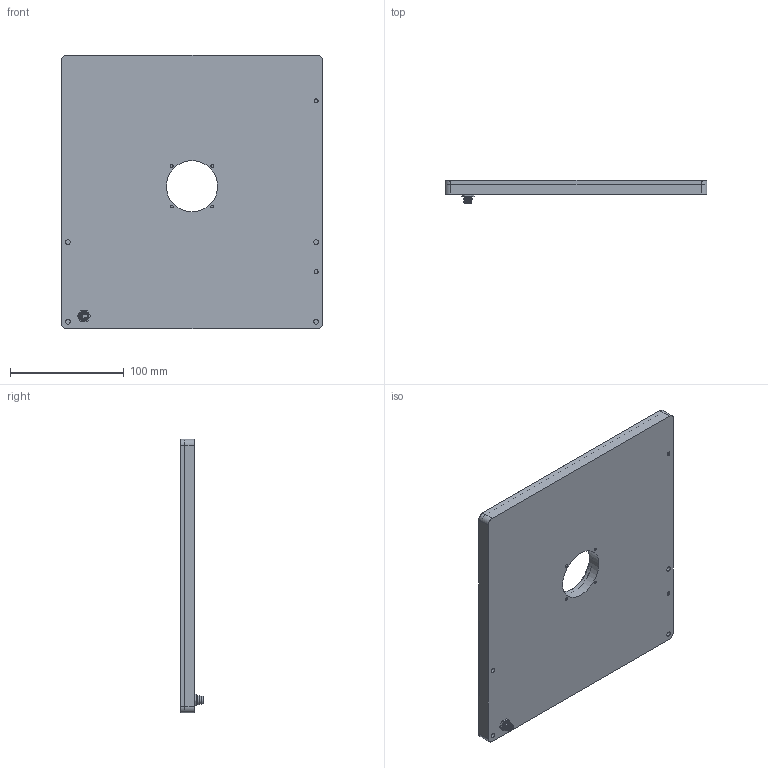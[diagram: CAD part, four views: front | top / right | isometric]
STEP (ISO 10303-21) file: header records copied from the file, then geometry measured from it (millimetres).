
FILE_DESCRIPTION (( 'STEP AP214' ), '1' );
FILE_NAME ('01829.01 Basisbaugruppe DTL-2020 Step17082020.STEP', '2020-08-17T08:44:56', ( '' ), ( '' ), 'SwSTEP 2.0', 'SolidWorks 2013', '' );
FILE_SCHEMA (( 'AUTOMOTIVE_DESIGN' ));
Length unit declared in the file: millimetre
Products named in the file (1): 01829.01 Basisbaugruppe DTL-2020 Step17082020
Bounding box: 230 x 20 x 240 mm (x, y, z)
Surface area: 139689.6 mm2 (no closed solid volume)
Topology: 0 solids, 9 shells, 77 faces, 205 edges, 142 vertices
Faces by surface type: cylinder 38, plane 32, cone 5, bspline 2
Full cylindrical faces by diameter (mm): 1 x4, 2.5 x4, 3.5 x2, 4.2 x4, 5.8 x1, 6.5 x2, 6.9 x1, 8 x1, 45 x1, 46.6 x1, 47 x2, 53 x1
Entity records: 3765 total; most frequent: CARTESIAN_POINT 1126, DIRECTION 388, ORIENTED_EDGE 272, EDGE_CURVE 165, AXIS2_PLACEMENT_3D 162, VERTEX_POINT 133, EDGE_LOOP 127, FACE_OUTER_BOUND 103
